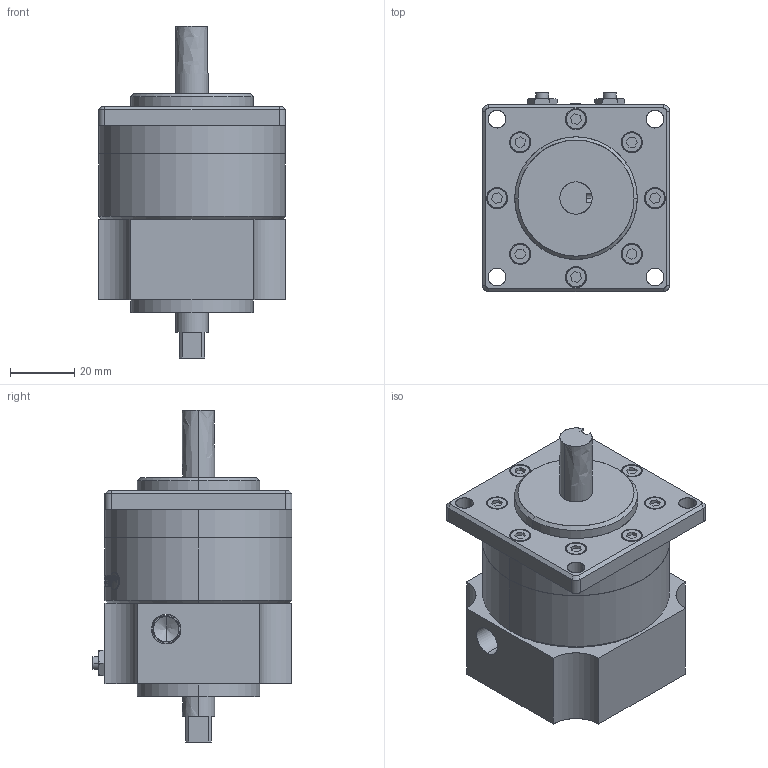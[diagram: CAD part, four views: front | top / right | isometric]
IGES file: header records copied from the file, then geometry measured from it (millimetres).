
Start section: SolidWorks IGES file using analytic representation for surfaces
Global section: file name: C:\Users\Chieh_Lu\Dropbox\¤u§@«Ç\HRN\HRN10S-C.IGS; native system: SolidWorks 2014; preprocessor: SolidWorks 2014; author: Chieh_Lu; date: 160115.005744; units: millimetre
Bounding box: 58 x 62 x 103 mm (x, y, z)
Surface area: 45488.3 mm2 (no closed solid volume)
Topology: 0 solids, 0 shells, 465 faces, 6842 edges, 6820 vertices
Faces by surface type: bspline 235, revolution 230
